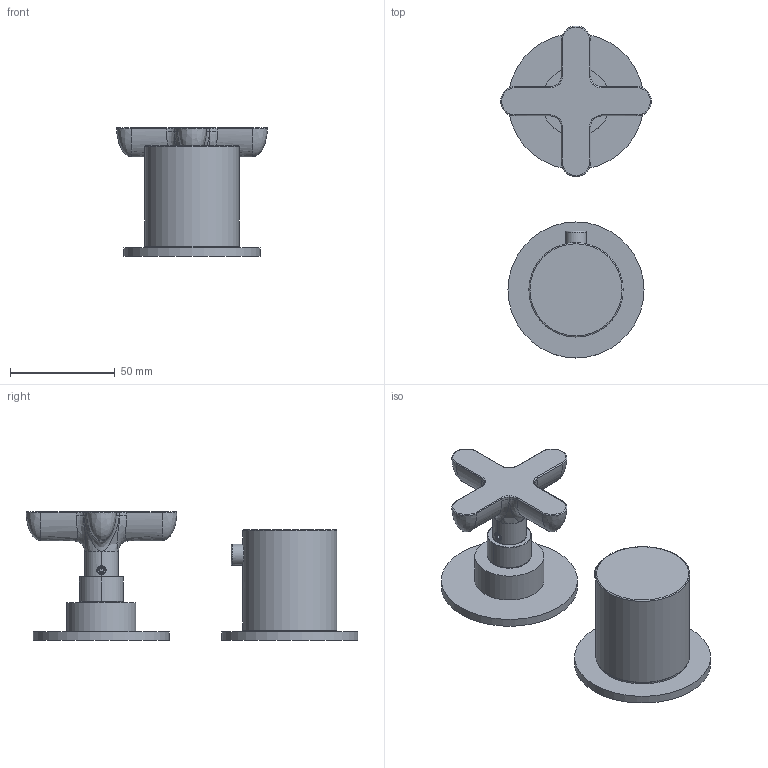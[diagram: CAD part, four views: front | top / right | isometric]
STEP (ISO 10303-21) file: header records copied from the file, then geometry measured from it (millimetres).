
FILE_DESCRIPTION(('STEP AP214'),'2;1');
FILE_NAME('DIS_3D_R423B_M523A.stp','2024-04-24T16:46:05',(''),(''),'2015.2.119','THINKDESIGN','');
FILE_SCHEMA(('AUTOMOTIVE_DESIGN'));
Length unit declared in the file: millimetre
Products named in the file (1): top
Bounding box: 71.99 x 158.5 x 61.5 mm (x, y, z)
Volume: 142917.6 mm3; surface area: 39256.8 mm2
Topology: 9 solids, 9 shells, 173 faces, 392 edges, 233 vertices
Faces by surface type: bspline 77, cylinder 54, plane 42
Full cylindrical faces by diameter (mm): 9.957 x1, 33 x1, 45 x1, 65 x2
Entity records: 12912 total; most frequent: CARTESIAN_POINT 6264, ORIENTED_EDGE 764, DIRECTION 653, EDGE_CURVE 382, STYLED_ITEM 355, PRESENTATION_STYLE_ASSIGNMENT 350, SURFACE_STYLE_USAGE 350, SURFACE_SIDE_STYLE 350
